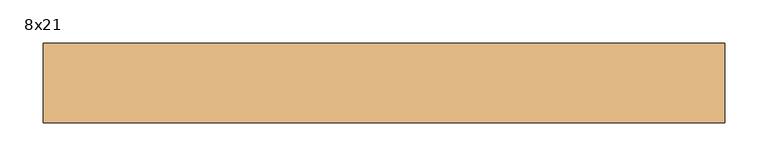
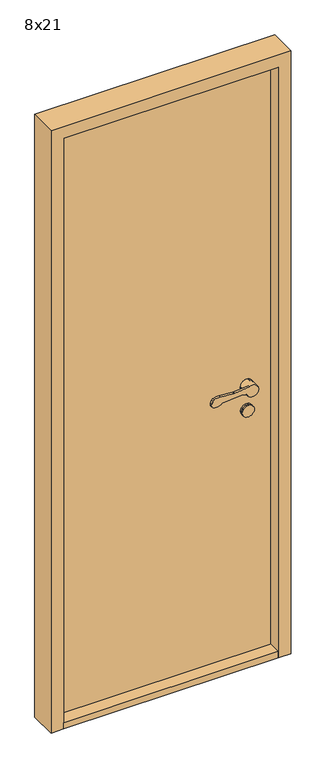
"""IFC4 building model written with IfcOpenShell, lengths in millimetres: door geometry, Innerdør Slett (Diplomat) : 8x21."""

import ifcopenshell
import ifcopenshell.guid

model = None  # the IFC model being written
_history = None  # IfcOwnerHistory: only IFC2X3 demands one
_inside = {}  # id of a spatial element -> (the spatial element, [elements in it])
_under = {}  # id of a project, library or spatial element -> (it, [spatial elements below it])
_declared = {}  # id of a project -> (the project, [libraries it declares])
_typed = {}  # id of a type object -> (the type object, [elements of that type])
_made_of = {}  # id of a material, layer set ... -> (it, [elements and type objects made of it])


def new_model(schema):
    """Start an empty IFC model of exactly this schema.

    Asked for "IFC4X3", IfcOpenShell would pick the latest addendum, in which some entities
    have other attributes; the version numbers below select the first issue.
    IFC2X3 requires an IfcOwnerHistory on every rooted entity: one is made here for all.
    """
    global model, _history
    if schema == "IFC4X3":
        model = ifcopenshell.file(schema_version=(4, 3, 0, 0))
    else:
        model = ifcopenshell.file(schema=schema)
    _inside.clear()
    _under.clear()
    _declared.clear()
    _typed.clear()
    _made_of.clear()
    _history = None
    if model.schema == "IFC2X3":
        org = make("IfcOrganization", Name="unknown")
        user = make(
            "IfcPersonAndOrganization",
            ThePerson=make("IfcPerson", FamilyName="unknown"),
            TheOrganization=org,
        )
        app = make(
            "IfcApplication",
            ApplicationDeveloper=org,
            Version="unknown",
            ApplicationFullName="unknown",
            ApplicationIdentifier="unknown",
        )
        _history = make(
            "IfcOwnerHistory",
            OwningUser=user,
            OwningApplication=app,
            ChangeAction="ADDED",
            CreationDate=0,
        )
    return model


def make(cls, **values):
    """One entity of the class cls with the attributes given. An attribute that is None is left unset."""
    return model.create_entity(
        cls, **{name: value for name, value in values.items() if value is not None}
    )


def rooted(cls, **values):
    """An entity with a GlobalId (a new one), such as an element, a storey or a relation."""
    return make(cls, GlobalId=ifcopenshell.guid.new(), OwnerHistory=_history, **values)


def si_unit(unit_type, name, prefix=None):
    """IfcSIUnit, for example si_unit("LENGTHUNIT", "METRE", prefix="MILLI")."""
    return make("IfcSIUnit", UnitType=unit_type, Prefix=prefix, Name=name)


def assignment(units):
    """IfcUnitAssignment: the units of a project."""
    return None if units is None else make("IfcUnitAssignment", Units=units)


def point(xyz):
    """IfcCartesianPoint."""
    return None if xyz is None else make("IfcCartesianPoint", Coordinates=xyz)


def direction(xyz):
    """IfcDirection."""
    return None if xyz is None else make("IfcDirection", DirectionRatios=xyz)


def frame(location, z_axis=None, x_axis=None):
    """IfcAxis2Placement3D, a coordinate frame: its origin and axes. An axis left out is left unset."""
    return make(
        "IfcAxis2Placement3D",
        Location=point(location),
        Axis=direction(z_axis),
        RefDirection=direction(x_axis),
    )


def frame_2d(location, x_axis=None):
    """IfcAxis2Placement2D, a coordinate frame in the plane: its origin and x axis."""
    return make(
        "IfcAxis2Placement2D", Location=point(location), RefDirection=direction(x_axis)
    )


def origin():
    """The frame at (0, 0, 0) with its axes left unset."""
    return frame((0.0, 0.0, 0.0))


def origin_with_axes():
    """The frame at (0, 0, 0) with the z axis (0, 0, 1) and the x axis (1, 0, 0) written out."""
    return frame((0.0, 0.0, 0.0), z_axis=(0.0, 0.0, 1.0), x_axis=(1.0, 0.0, 0.0))


def place(relative_to, where):
    """IfcLocalPlacement: puts the frame where relative to a parent placement (None: the world)."""
    return make(
        "IfcLocalPlacement", PlacementRelTo=relative_to, RelativePlacement=where
    )


def context(
    kind, dimensions, precision=None, world=None, true_north=None, identifier=None
):
    """IfcGeometricRepresentationContext, for example the 3D "Model" context."""
    return make(
        "IfcGeometricRepresentationContext",
        ContextIdentifier=identifier,
        ContextType=kind,
        CoordinateSpaceDimension=dimensions,
        Precision=precision,
        WorldCoordinateSystem=world,
        TrueNorth=true_north,
    )


def project(units=None, contexts=None):
    """IfcProject with its units and contexts."""
    return rooted(
        "IfcProject",
        Name="project",
        RepresentationContexts=contexts,
        UnitsInContext=assignment(units),
    )


def spatial(cls, under=None, at=None, **own):
    """A site, building, storey or space (cls), placed at a placement, below another one or the project."""
    s = rooted(cls, ObjectPlacement=at, **own)
    if under is not None:
        _under.setdefault(under.id(), (under, []))[1].append(s)
    return s


def polyline(points):
    """IfcPolyline through the points."""
    return make("IfcPolyline", Points=[point(p) for p in points])


def circle_curve(where, radius):
    """IfcCircle in the frame where."""
    return make("IfcCircle", Position=where, Radius=radius)


def trimmed(basis, trim1, trim2, sense, master):
    """IfcTrimmedCurve: the piece of a basis curve between two trims."""
    return make(
        "IfcTrimmedCurve",
        BasisCurve=basis,
        Trim1=trim1,
        Trim2=trim2,
        SenseAgreement=sense,
        MasterRepresentation=master,
    )


def segment(curve, same_sense, transition):
    """IfcCompositeCurveSegment."""
    return make(
        "IfcCompositeCurveSegment",
        Transition=transition,
        SameSense=same_sense,
        ParentCurve=curve,
    )


def composite_curve(segments, self_intersect=None):
    """IfcCompositeCurve: segments joined end to end."""
    return make("IfcCompositeCurve", Segments=segments, SelfIntersect=self_intersect)


def outline(outer, holes=None, kind="AREA"):
    """IfcArbitraryClosedProfileDef: a profile drawn as a closed curve; with holes, ...WithVoids."""
    if holes is None:
        return make("IfcArbitraryClosedProfileDef", ProfileType=kind, OuterCurve=outer)
    return make(
        "IfcArbitraryProfileDefWithVoids",
        ProfileType=kind,
        OuterCurve=outer,
        InnerCurves=holes,
    )


def extrude(swept, where, along, depth):
    """IfcExtrudedAreaSolid: the profile swept, set in the frame where, extruded along a direction by depth."""
    return make(
        "IfcExtrudedAreaSolid",
        SweptArea=swept,
        Position=where,
        ExtrudedDirection=direction(along),
        Depth=depth,
    )


def shape(context_of_items, identifier, shape_type, items):
    """IfcShapeRepresentation: the items that make up one representation, for example the "Body"."""
    return make(
        "IfcShapeRepresentation",
        ContextOfItems=context_of_items,
        RepresentationIdentifier=identifier,
        RepresentationType=shape_type,
        Items=items,
    )


def source(mapping_origin, context_of_items, identifier, shape_type, items):
    """IfcRepresentationMap: a shape defined once, which mapped items show again and again."""
    return make(
        "IfcRepresentationMap",
        MappingOrigin=mapping_origin,
        MappedRepresentation=shape(context_of_items, identifier, shape_type, items),
    )


def transform(
    local_origin,
    x_axis=None,
    y_axis=None,
    z_axis=None,
    scale=None,
    scale2=None,
    scale3=None,
    uniform=True,
):
    """IfcCartesianTransformationOperator3D, or its non-uniform kind. x_axis, y_axis, z_axis: its Axis1, 2, 3."""
    if uniform:
        return make(
            "IfcCartesianTransformationOperator3D",
            Axis1=direction(x_axis),
            Axis2=direction(y_axis),
            LocalOrigin=point(local_origin),
            Scale=scale,
            Axis3=direction(z_axis),
        )
    return make(
        "IfcCartesianTransformationOperator3DnonUniform",
        Axis1=direction(x_axis),
        Axis2=direction(y_axis),
        LocalOrigin=point(local_origin),
        Scale=scale,
        Axis3=direction(z_axis),
        Scale2=scale2,
        Scale3=scale3,
    )


def mapped(mapping_source, mapping_target):
    """IfcMappedItem: shows the shape of a source again, moved by a transform."""
    return make(
        "IfcMappedItem", MappingSource=mapping_source, MappingTarget=mapping_target
    )


def made_of(thing, what):
    """Note that an element or type object is made of a material, layer set ...; save() writes the relation."""
    if what is not None:
        _made_of.setdefault(what.id(), (what, []))[1].append(thing)
    return thing


def element(
    cls,
    number,
    at=None,
    inside=None,
    cuts=None,
    type_object=None,
    material=None,
    context=None,
    identifier="Body",
    shape_type=None,
    held_by="IfcProductDefinitionShape",
    body=None,
    shapes=None,
    **own,
):
    """One element of the class cls, such as IfcWall. Its Tag is "e" and its number.

    at: its placement. inside: the storey or other place that contains it. cuts: it is an
    opening in that element (IfcRelVoidsElement). A single representation is given by context,
    identifier, shape_type and body (its items); several are given by shapes. held_by: the class
    of the entity that holds the representations. save() writes the other relations.
    """
    e = rooted(cls, Tag="e%d" % number, ObjectPlacement=at, **own)
    if body is not None:
        shapes = [shape(context, identifier, shape_type, body)]
    if shapes is not None:
        e.Representation = make(held_by, Representations=shapes)
    if inside is not None:
        _inside.setdefault(inside.id(), (inside, []))[1].append(e)
    if cuts is not None:
        rooted(
            "IfcRelVoidsElement", RelatingBuildingElement=cuts, RelatedOpeningElement=e
        )
    if type_object is not None:
        _typed.setdefault(type_object.id(), (type_object, []))[1].append(e)
    return made_of(e, material)


def aggregate(whole, parts):
    """IfcRelAggregates: a whole, such as a stair, and the parts it consists of."""
    return rooted("IfcRelAggregates", RelatingObject=whole, RelatedObjects=parts)


def save(model, path):
    """Write the relations noted so far, then the file.

    IfcRelAggregates (storeys below a building ...), IfcRelContainedInSpatialStructure (elements
    in a storey), IfcRelDefinesByType, IfcRelAssociatesMaterial and IfcRelDeclares: one each for
    every whole, place, type object, material and project.
    """
    for whole, parts in _under.values():
        aggregate(whole, parts)
    for where, things in _inside.values():
        rooted(
            "IfcRelContainedInSpatialStructure",
            RelatedElements=things,
            RelatingStructure=where,
        )
    for kind, things in _typed.values():
        rooted("IfcRelDefinesByType", RelatedObjects=things, RelatingType=kind)
    for what, things in _made_of.values():
        rooted("IfcRelAssociatesMaterial", RelatedObjects=things, RelatingMaterial=what)
    for by, libraries in _declared.values():
        rooted("IfcRelDeclares", RelatingContext=by, RelatedDefinitions=libraries)
    model.write(path)


def plane_surface(at):
    """IfcPlane: the flat surface through the origin of the frame at, square to its z axis."""
    return make("IfcPlane", Position=at)


def cylinder_surface(at, radius):
    """IfcCylindricalSurface: all points at the distance radius from the z axis of the frame at."""
    return make("IfcCylindricalSurface", Position=at, Radius=radius)


def revolved_surface(curve, axis_point, axis_direction):
    """IfcSurfaceOfRevolution: the curve turned about the line through axis_point along axis_direction."""
    return make(
        "IfcSurfaceOfRevolution",
        SweptCurve=make("IfcArbitraryOpenProfileDef", ProfileType="CURVE", Curve=curve),
        AxisPosition=make("IfcAxis1Placement", Location=point(axis_point), Axis=direction(axis_direction)),
    )


def advanced_brep(points, edges, surfaces, faces):
    """IfcAdvancedBrep: a solid bounded by faces that lie on surfaces and meet in shared edges.

    An edge is (start, end): straight between two places in points (the first is 0);
    or (start, end, curve); or (start, end, curve, False) where it runs against its curve.
    A face is (place in surfaces, loops), or (place, loops, False) where it looks against
    its surface's normal. A loop lists edges by number (the first is 1), with a minus sign
    where the edge is run from its end to its start. The first loop is the outer one.
    """
    corners = [point(p) for p in points]
    vertices = [make("IfcVertexPoint", VertexGeometry=c) for c in corners]
    made = []
    for start, end, *more in edges:
        made.append(
            make(
                "IfcEdgeCurve",
                EdgeStart=vertices[start],
                EdgeEnd=vertices[end],
                EdgeGeometry=more[0] if more else make("IfcPolyline", Points=[corners[start], corners[end]]),
                SameSense=more[1] if len(more) > 1 else True,
            )
        )
    hull = []
    for where, loops, *sense in faces:
        bounds = []
        for j, loop in enumerate(loops):
            ring = [make("IfcOrientedEdge", EdgeElement=made[abs(k) - 1], Orientation=k > 0) for k in loop]
            bounds.append(
                make(
                    "IfcFaceOuterBound" if j == 0 else "IfcFaceBound",
                    Bound=make("IfcEdgeLoop", EdgeList=ring),
                    Orientation=True,
                )
            )
        hull.append(make("IfcAdvancedFace", Bounds=bounds, FaceSurface=surfaces[where], SameSense=sense[0] if sense else True))
    return make("IfcAdvancedBrep", Outer=make("IfcClosedShell", CfsFaces=hull))


def door_8x21_c9f185f7(model_context):
    return source(origin(), model_context, "Body", "SolidModel", [
        advanced_brep(
        [(293.9611305, 40.0, 949.1175955), (308.3841161, 40.0, 942.6204086), (346.379633, 40.0, 951.3474568), (317.2687793, 40.0, 969.1517356), (268.6891233, 40.0, 964.26032), (263.6202158, 40.0, 964.1804415), (218.8963175, 40.0, 967.2639242), (200.3175669, 40.0, 964.8810513), (195.505009, 40.0, 959.9624074), (191.8691983, 40.0, 951.8913379), (196.721536, 40.0, 938.7393398), (226.0476109, 40.0, 943.6260011), (288.8520664, 40.0, 949.9496913), (268.6891233, 47.1084716, 964.26032), (317.2687793, 47.1084716, 969.1517356), (306.379633, 47.1084716, 951.3474568), (308.3841161, 47.1084716, 942.6204086), (293.9611305, 47.1084716, 949.1175955), (288.8520664, 47.1084716, 949.9496913), (226.0476109, 47.1084716, 943.6260011), (196.721536, 47.1084716, 938.7393398), (191.8691983, 47.1084716, 951.8913379), (195.505009, 47.1084716, 959.9624074), (200.3175669, 47.1084716, 964.8810513), (218.8963175, 47.1084716, 967.2639242), (263.6202158, 47.1084716, 964.1804415), (346.379633, 75.0, 951.3474568), (306.379633, 75.0, 951.3474568)],
        [
            (0, 1),
            (1, 2, circle_curve(frame((326.379633, 40.0, 951.3474568), z_axis=(0.0, -1.0, 0.0), x_axis=(-1.0, 0.0, 0.0)), 20.0)),
            (2, 3, circle_curve(frame((326.379633, 40.0, 951.3474568), z_axis=(0.0, -1.0, 0.0), x_axis=(-1.0, 0.0, 0.0)), 20.0)),
            (3, 4),
            (4, 5, circle_curve(frame((265.683663, 40.0, 994.1093938), z_axis=(0.0, 1.0, 0.0), x_axis=(-0.9949691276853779, 0.0, -0.10018200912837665)), 30.0)),
            (5, 6),
            (6, 7, circle_curve(frame((213.2326797, 40.0, 937.8033877), z_axis=(0.0, -1.0, 0.0), x_axis=(-0.9949691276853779, 0.0, -0.10018200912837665)), 30.0)),
            (7, 8, circle_curve(frame((204.6226045, 40.0, 955.8551634), z_axis=(0.0, -1.0, 0.0), x_axis=(-0.9949691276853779, 0.0, -0.10018200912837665)), 10.0)),
            (8, 9),
            (9, 10, circle_curve(frame((200.9867937, 40.0, 947.7840939), z_axis=(0.0, -1.0, 0.0), x_axis=(-0.9949691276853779, 0.0, -0.10018200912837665)), 10.0)),
            (10, 11, circle_curve(frame((207.8569644, 40.0, 962.352734), z_axis=(0.0, -1.0, 0.0), x_axis=(-0.9949691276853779, 0.0, -0.10018200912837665)), 26.1072815)),
            (11, 12),
            (12, 0, circle_curve(frame((289.8538865, 40.0, 940.0), z_axis=(0.0, 1.0, 0.0), x_axis=(-0.9949691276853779, 0.0, -0.10018200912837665)), 10.0)),
            (13, 14),
            (14, 15, circle_curve(frame((326.379633, 47.1084716, 951.3474568), z_axis=(0.0, -1.0, 0.0), x_axis=(-1.0, 0.0, 0.0)), 20.0)),
            (15, 16, circle_curve(frame((326.379633, 47.1084716, 951.3474568), z_axis=(0.0, -1.0, 0.0), x_axis=(-1.0, 0.0, 0.0)), 20.0)),
            (16, 17),
            (17, 18, circle_curve(frame((289.8538865, 47.1084716, 940.0), z_axis=(0.0, -1.0, 0.0), x_axis=(-0.9949691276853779, 0.0, -0.10018200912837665)), 10.0)),
            (18, 19),
            (19, 20, circle_curve(frame((207.8569644, 47.1084716, 962.352734), z_axis=(0.0, 1.0, 0.0), x_axis=(-0.9949691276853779, 0.0, -0.10018200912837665)), 26.1072815)),
            (20, 21, circle_curve(frame((200.9867937, 47.1084716, 947.7840939), z_axis=(0.0, 1.0, 0.0), x_axis=(-0.9949691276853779, 0.0, -0.10018200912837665)), 10.0)),
            (21, 22),
            (22, 23, circle_curve(frame((204.6226045, 47.1084716, 955.8551634), z_axis=(0.0, 1.0, 0.0), x_axis=(-0.9949691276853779, 0.0, -0.10018200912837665)), 10.0)),
            (23, 24, circle_curve(frame((213.2326797, 47.1084716, 937.8033877), z_axis=(0.0, 1.0, 0.0), x_axis=(-0.9949691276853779, 0.0, -0.10018200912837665)), 30.0)),
            (24, 25),
            (25, 13, circle_curve(frame((265.683663, 47.1084716, 994.1093938), z_axis=(0.0, -1.0, 0.0), x_axis=(-0.9949691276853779, 0.0, -0.10018200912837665)), 30.0)),
            (3, 14),
            (13, 4),
            (16, 1),
            (0, 17),
            (12, 18),
            (11, 19),
            (10, 20),
            (9, 21),
            (8, 22),
            (7, 23),
            (6, 24),
            (5, 25),
            (26, 27, circle_curve(frame((326.379633, 75.0, 951.3474568), z_axis=(0.0, 1.0, 0.0), x_axis=(-1.0, 0.0, 0.0)), 20.0)),
            (27, 26, circle_curve(frame((326.379633, 75.0, 951.3474568), z_axis=(0.0, 1.0, 0.0), x_axis=(-1.0, 0.0, 0.0)), 20.0)),
            (26, 2),
            (15, 27),
        ],
        [
            plane_surface(frame((317.6960588, 40.0, 969.1947577), z_axis=(0.0, -1.0000000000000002, 0.0), x_axis=(0.9949691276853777, 0.0, 0.10018200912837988))),
            plane_surface(frame((317.6960588, 47.1084716, 969.1947577), z_axis=(0.0, 1.0000000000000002, 0.0), x_axis=(-0.9949691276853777, 0.0, -0.10018200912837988))),
            plane_surface(frame((268.6891233, 40.0, 964.26032), z_axis=(-0.10018200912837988, 0.0, 0.9949691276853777), x_axis=(0.0, 1.0, 0.0))),
            plane_surface(frame((326.9687366, 40.0, 934.2485115), z_axis=(-0.41072439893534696, 0.0, -0.91175954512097), x_axis=(0.0, 1.0, 0.0))),
            revolved_surface(polyline([(279.9041952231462, 47.1084716, 938.9981799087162), (279.9041952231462, 40.0, 938.9981799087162)]), (289.8538865, 47.1084716, 940.0), (0.0, 1.0, 0.0)),
            plane_surface(frame((288.8520664, 40.0, 949.9496913), z_axis=(0.10018200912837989, 0.0, -0.9949691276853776), x_axis=(0.0, 1.0, 0.0))),
            cylinder_surface(frame((207.8569644, 47.1084716, 962.352734), z_axis=(0.0, -1.0, 0.0), x_axis=(-0.9949691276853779, 0.0, -0.10018200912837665)), 26.1072815),
            cylinder_surface(frame((200.9867937, 47.1084716, 947.7840939), z_axis=(0.0, -1.0, 0.0), x_axis=(-0.9949691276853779, 0.0, -0.10018200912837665)), 10.0),
            plane_surface(frame((191.8691983, 40.0, 951.8913379), z_axis=(-0.9117595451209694, 0.0, 0.41072439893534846), x_axis=(0.0, 1.0, 0.0))),
            cylinder_surface(frame((204.6226045, 47.1084716, 955.8551634), z_axis=(0.0, -1.0, 0.0), x_axis=(-0.9949691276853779, 0.0, -0.10018200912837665)), 10.0),
            cylinder_surface(frame((213.2326797, 47.1084716, 937.8033877), z_axis=(0.0, -1.0, 0.0), x_axis=(-0.9949691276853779, 0.0, -0.10018200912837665)), 30.0),
            plane_surface(frame((218.8963175, 40.0, 967.2639242), z_axis=(0.06878157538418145, 0.0, 0.9976317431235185), x_axis=(0.0, 1.0, 0.0))),
            revolved_surface(polyline([(235.8345891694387, 47.1084716, 991.1039335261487), (235.8345891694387, 40.0, 991.1039335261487)]), (265.683663, 47.1084716, 994.1093938), (0.0, 1.0, 0.0)),
            plane_surface(frame((306.379633, 75.0, 951.3474568), z_axis=(0.0, 1.0, 0.0), x_axis=(0.0, 0.0, -1.0))),
            cylinder_surface(frame((326.379633, 75.0, 951.3474568), z_axis=(0.0, -1.0, 0.0), x_axis=(-1.0, 0.0, 0.0)), 20.0),
        ],
        [
            (0, [[1, 2, 3, 4, 5, 6, 7, 8, 9, 10, 11, 12, 13]]),
            (1, [[14, 15, 16, 17, 18, 19, 20, 21, 22, 23, 24, 25, 26]]),
            (2, [[-4, 27, -14, 28]]),
            (3, [[-17, 29, -1, 30]]),
            (4, [[31, -18, -30, -13]]),
            (5, [[32, -19, -31, -12]]),
            (6, [[33, -20, -32, -11]]),
            (7, [[34, -21, -33, -10]]),
            (8, [[35, -22, -34, -9]]),
            (9, [[36, -23, -35, -8]]),
            (10, [[37, -24, -36, -7]]),
            (11, [[38, -25, -37, -6]]),
            (12, [[-28, -26, -38, -5]]),
            (13, [[39, 40]]),
            (14, [[41, -2, -29, -16, 42, -39]]),
            (14, [[-42, -15, -27, -3, -41, -40]]),
        ],
    ),
        extrude(outline(composite_curve([segment(trimmed(circle_curve(frame_2d((866.3474568, 326.379633)), 20.0), [point((866.3474568, 346.379633))], [point((866.3474568, 306.379633))], False, "CARTESIAN"), True, "CONTINUOUS"), segment(trimmed(circle_curve(frame_2d((866.3474568, 326.379633)), 20.0), [point((866.3474568, 306.379633))], [point((866.3474568, 346.379633))], False, "CARTESIAN"), True, "CONTINUOUS")], self_intersect=False)), frame((0.0, 70.0, 0.0), z_axis=(0.0, 1.0, 0.0), x_axis=(0.0, 0.0, 1.0)), (0.0, 0.0, 1.0), 5.0),
        advanced_brep(
        [(293.9611305, 100.0, 949.1175955), (288.8520664, 100.0, 949.9496913), (226.0476109, 100.0, 943.6260011), (196.721536, 100.0, 938.7393398), (191.8691983, 100.0, 951.8913379), (195.505009, 100.0, 959.9624074), (200.3175669, 100.0, 964.8810513), (218.8963175, 100.0, 967.2639242), (263.6202158, 100.0, 964.1804415), (268.6891233, 100.0, 964.26032), (317.2687793, 100.0, 969.1517356), (346.379633, 100.0, 951.3474568), (308.3841161, 100.0, 942.6204086), (268.6891233, 92.8915284, 964.26032), (263.6202158, 92.8915284, 964.1804415), (218.8963175, 92.8915284, 967.2639242), (200.3175669, 92.8915284, 964.8810513), (195.505009, 92.8915284, 959.9624074), (191.8691983, 92.8915284, 951.8913379), (196.721536, 92.8915284, 938.7393398), (226.0476109, 92.8915284, 943.6260011), (288.8520664, 92.8915284, 949.9496913), (293.9611305, 92.8915284, 949.1175955), (308.3841161, 92.8915284, 942.6204086), (306.379633, 92.8915284, 951.3474568), (317.2687793, 92.8915284, 969.1517356), (346.379633, 65.0, 951.3474568), (306.379633, 65.0, 951.3474568)],
        [
            (0, 1, circle_curve(frame((289.8538865, 100.0, 940.0), z_axis=(0.0, -1.0, 0.0), x_axis=(-0.9949691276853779, 0.0, -0.10018200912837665)), 10.0)),
            (1, 2),
            (2, 3, circle_curve(frame((207.8569644, 100.0, 962.352734), z_axis=(0.0, 1.0, 0.0), x_axis=(-0.9949691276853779, 0.0, -0.10018200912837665)), 26.1072815)),
            (3, 4, circle_curve(frame((200.9867937, 100.0, 947.7840939), z_axis=(0.0, 1.0, 0.0), x_axis=(-0.9949691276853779, 0.0, -0.10018200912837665)), 10.0)),
            (4, 5),
            (5, 6, circle_curve(frame((204.6226045, 100.0, 955.8551634), z_axis=(0.0, 1.0, 0.0), x_axis=(-0.9949691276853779, 0.0, -0.10018200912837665)), 10.0)),
            (6, 7, circle_curve(frame((213.2326797, 100.0, 937.8033877), z_axis=(0.0, 1.0, 0.0), x_axis=(-0.9949691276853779, 0.0, -0.10018200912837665)), 30.0)),
            (7, 8),
            (8, 9, circle_curve(frame((265.683663, 100.0, 994.1093938), z_axis=(0.0, -1.0, 0.0), x_axis=(-0.9949691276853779, 0.0, -0.10018200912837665)), 30.0)),
            (9, 10),
            (10, 11, circle_curve(frame((326.379633, 100.0, 951.3474568), z_axis=(0.0, 1.0, 0.0), x_axis=(-1.0, 0.0, 0.0)), 20.0)),
            (11, 12, circle_curve(frame((326.379633, 100.0, 951.3474568), z_axis=(0.0, 1.0, 0.0), x_axis=(-1.0, 0.0, 0.0)), 20.0)),
            (12, 0),
            (13, 14, circle_curve(frame((265.683663, 92.8915284, 994.1093938), z_axis=(0.0, 1.0, 0.0), x_axis=(-0.9949691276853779, 0.0, -0.10018200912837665)), 30.0)),
            (14, 15),
            (15, 16, circle_curve(frame((213.2326797, 92.8915284, 937.8033877), z_axis=(0.0, -1.0, 0.0), x_axis=(-0.9949691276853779, 0.0, -0.10018200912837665)), 30.0)),
            (16, 17, circle_curve(frame((204.6226045, 92.8915284, 955.8551634), z_axis=(0.0, -1.0, 0.0), x_axis=(-0.9949691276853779, 0.0, -0.10018200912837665)), 10.0)),
            (17, 18),
            (18, 19, circle_curve(frame((200.9867937, 92.8915284, 947.7840939), z_axis=(0.0, -1.0, 0.0), x_axis=(-0.9949691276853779, 0.0, -0.10018200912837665)), 10.0)),
            (19, 20, circle_curve(frame((207.8569644, 92.8915284, 962.352734), z_axis=(0.0, -1.0, 0.0), x_axis=(-0.9949691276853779, 0.0, -0.10018200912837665)), 26.1072815)),
            (20, 21),
            (21, 22, circle_curve(frame((289.8538865, 92.8915284, 940.0), z_axis=(0.0, 1.0, 0.0), x_axis=(-0.9949691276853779, 0.0, -0.10018200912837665)), 10.0)),
            (22, 23),
            (23, 24, circle_curve(frame((326.379633, 92.8915284, 951.3474568), z_axis=(0.0, 1.0, 0.0), x_axis=(-1.0, 0.0, 0.0)), 20.0)),
            (24, 25, circle_curve(frame((326.379633, 92.8915284, 951.3474568), z_axis=(0.0, 1.0, 0.0), x_axis=(-1.0, 0.0, 0.0)), 20.0)),
            (25, 13),
            (9, 13),
            (25, 10),
            (22, 0),
            (12, 23),
            (21, 1),
            (20, 2),
            (19, 3),
            (18, 4),
            (17, 5),
            (16, 6),
            (15, 7),
            (14, 8),
            (26, 27, circle_curve(frame((326.379633, 65.0, 951.3474568), z_axis=(0.0, -1.0, 0.0), x_axis=(-1.0, 0.0, 0.0)), 20.0)),
            (27, 26, circle_curve(frame((326.379633, 65.0, 951.3474568), z_axis=(0.0, -1.0, 0.0), x_axis=(-1.0, 0.0, 0.0)), 20.0)),
            (27, 24),
            (11, 26),
        ],
        [
            plane_surface(frame((317.6960588, 100.0, 969.1947577), z_axis=(0.0, 1.0000000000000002, 0.0), x_axis=(0.9949691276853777, 0.0, 0.10018200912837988))),
            plane_surface(frame((317.6960588, 92.8915284, 969.1947577), z_axis=(0.0, -1.0000000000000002, 0.0), x_axis=(-0.9949691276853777, 0.0, -0.10018200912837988))),
            plane_surface(frame((268.6891233, 100.0, 964.26032), z_axis=(-0.10018200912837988, 0.0, 0.9949691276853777), x_axis=(0.0, -1.0, 0.0))),
            plane_surface(frame((326.9687366, 100.0, 934.2485115), z_axis=(-0.41072439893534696, 0.0, -0.91175954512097), x_axis=(0.0, -1.0, 0.0))),
            revolved_surface(polyline([(279.9041952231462, 92.8915284, 938.9981799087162), (279.9041952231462, 100.0, 938.9981799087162)]), (289.8538865, 92.8915284, 940.0), (0.0, -1.0, 0.0)),
            plane_surface(frame((288.8520664, 100.0, 949.9496913), z_axis=(0.10018200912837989, 0.0, -0.9949691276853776), x_axis=(0.0, -1.0, 0.0))),
            cylinder_surface(frame((207.8569644, 92.8915284, 962.352734), z_axis=(0.0, 1.0, 0.0), x_axis=(-0.9949691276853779, 0.0, -0.10018200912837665)), 26.1072815),
            cylinder_surface(frame((200.9867937, 92.8915284, 947.7840939), z_axis=(0.0, 1.0, 0.0), x_axis=(-0.9949691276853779, 0.0, -0.10018200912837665)), 10.0),
            plane_surface(frame((191.8691983, 100.0, 951.8913379), z_axis=(-0.9117595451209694, 0.0, 0.41072439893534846), x_axis=(0.0, -1.0, 0.0))),
            cylinder_surface(frame((204.6226045, 92.8915284, 955.8551634), z_axis=(0.0, 1.0, 0.0), x_axis=(-0.9949691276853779, 0.0, -0.10018200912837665)), 10.0),
            cylinder_surface(frame((213.2326797, 92.8915284, 937.8033877), z_axis=(0.0, 1.0, 0.0), x_axis=(-0.9949691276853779, 0.0, -0.10018200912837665)), 30.0),
            plane_surface(frame((218.8963175, 100.0, 967.2639242), z_axis=(0.06878157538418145, 0.0, 0.9976317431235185), x_axis=(0.0, -1.0, 0.0))),
            revolved_surface(polyline([(235.8345891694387, 92.8915284, 991.1039335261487), (235.8345891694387, 100.0, 991.1039335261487)]), (265.683663, 92.8915284, 994.1093938), (0.0, -1.0, 0.0)),
            plane_surface(frame((306.379633, 65.0, 951.3474568), z_axis=(0.0, -1.0, 0.0), x_axis=(0.0, 0.0, -1.0))),
            cylinder_surface(frame((326.379633, 65.0, 951.3474568), z_axis=(0.0, 1.0, 0.0), x_axis=(-1.0, 0.0, 0.0)), 20.0),
        ],
        [
            (0, [[1, 2, 3, 4, 5, 6, 7, 8, 9, 10, 11, 12, 13]]),
            (1, [[14, 15, 16, 17, 18, 19, 20, 21, 22, 23, 24, 25, 26]]),
            (2, [[27, -26, 28, -10]]),
            (3, [[29, -13, 30, -23]]),
            (4, [[-1, -29, -22, 31]]),
            (5, [[-2, -31, -21, 32]]),
            (6, [[-3, -32, -20, 33]]),
            (7, [[-4, -33, -19, 34]]),
            (8, [[-5, -34, -18, 35]]),
            (9, [[-6, -35, -17, 36]]),
            (10, [[-7, -36, -16, 37]]),
            (11, [[-8, -37, -15, 38]]),
            (12, [[-9, -38, -14, -27]]),
            (13, [[39, 40]]),
            (14, [[-40, 41, -24, -30, -12, 42]]),
            (14, [[-39, -42, -11, -28, -25, -41]]),
        ],
    ),
        extrude(outline(composite_curve([segment(trimmed(circle_curve(frame_2d((866.3474568, 326.379633)), 20.0), [point((866.3474568, 346.379633))], [point((866.3474568, 306.379633))], False, "CARTESIAN"), True, "CONTINUOUS"), segment(trimmed(circle_curve(frame_2d((866.3474568, 326.379633)), 20.0), [point((866.3474568, 306.379633))], [point((866.3474568, 346.379633))], False, "CARTESIAN"), True, "CONTINUOUS")], self_intersect=False)), frame((0.0, 65.0, 0.0), z_axis=(0.0, 1.0, 0.0), x_axis=(0.0, 0.0, 1.0)), (0.0, 0.0, 1.0), 5.0),
        extrude(outline(polyline([(406.379633, 33.0), (-299.620367, 33.0), (-299.620367, 125.0), (406.379633, 125.0), (406.379633, 33.0)])), origin_with_axes(), (0.0, 0.0, 1.0), 22.0),
        extrude(outline(polyline([(406.379633, 75.0), (-299.620367, 75.0), (-299.620367, 125.0), (406.379633, 125.0), (406.379633, 75.0)])), frame((0.0, 0.0, 22.0), z_axis=(0.0, 0.0, 1.0), x_axis=(1.0, 0.0, 0.0)), (0.0, 0.0, 1.0), 2031.0),
        extrude(outline(polyline([(0.0, -341.620367), (0.0, -299.620367), (2053.0, -299.620367), (2053.0, 406.379633), (0.0, 406.379633), (0.0, 448.379633), (2095.0, 448.379633), (2095.0, -341.620367), (0.0, -341.620367)])), frame((0.0, 33.0, 0.0), z_axis=(0.0, 1.0, 0.0), x_axis=(0.0, 0.0, 1.0)), (0.0, 0.0, 1.0), 92.0),
    ])


if __name__ == "__main__":
    model = new_model("IFC4")
    model_context = context("Model", 3, world=origin())
    ifc_project = project(units=[si_unit("LENGTHUNIT", "METRE", prefix="MILLI")], contexts=[model_context])
    site = spatial("IfcSite", under=ifc_project)
    building = spatial("IfcBuilding", under=site)
    placement = place(None, origin())
    door_8x21_shape = door_8x21_c9f185f7(model_context)
    element("IfcDoor", 1, ObjectType="Innerdør Slett (Diplomat) : 8x21", at=placement, inside=building, context=model_context, shape_type="MappedRepresentation", body=[
        mapped(door_8x21_shape, transform((0.0, 0.0, 0.0), x_axis=(1.0, 0.0, 0.0), y_axis=(0.0, 1.0, 0.0), z_axis=(0.0, 0.0, 1.0))),
    ])
    save(model, "model.ifc")
